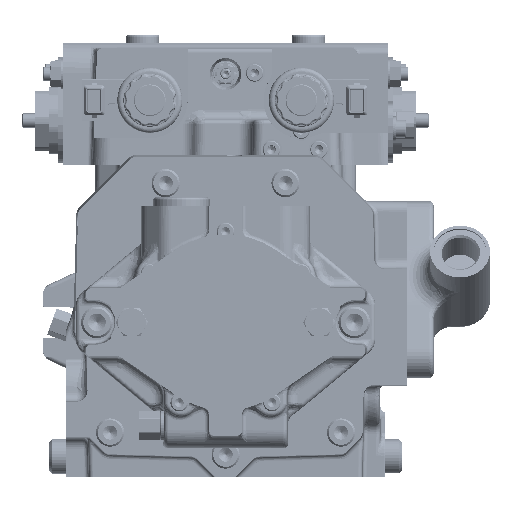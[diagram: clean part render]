
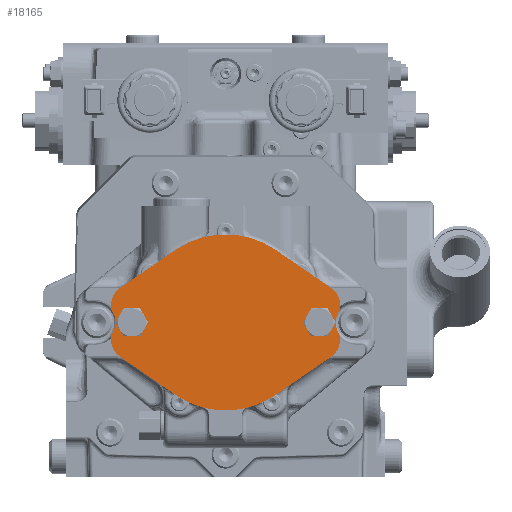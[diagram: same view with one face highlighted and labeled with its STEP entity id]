
A CAD part, front view. The second image highlights one B-rep face of the part: STEP entity #18165.
In plain terms, the highlighted planar face has unit normal (0, -1, 0).
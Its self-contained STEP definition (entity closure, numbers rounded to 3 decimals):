
#3175=PLANE('',#79796);
#4853=FACE_BOUND('',#27839,.T.);
#4854=FACE_BOUND('',#27840,.T.);
#4855=FACE_BOUND('',#27841,.T.);
#9588=LINE('',#139176,#13575);
#9589=LINE('',#139180,#13576);
#9590=LINE('',#139184,#13577);
#9591=LINE('',#139188,#13578);
#9592=LINE('',#139196,#13579);
#9593=LINE('',#139200,#13580);
#9594=LINE('',#139204,#13581);
#9595=LINE('',#139208,#13582);
#13575=VECTOR('',#97079,1.);
#13576=VECTOR('',#97082,1.);
#13577=VECTOR('',#97085,1.);
#13578=VECTOR('',#97088,1.);
#13579=VECTOR('',#97095,1.);
#13580=VECTOR('',#97098,1.);
#13581=VECTOR('',#97101,1.);
#13582=VECTOR('',#97104,1.);
#18165=ADVANCED_FACE('',(#4853,#4854,#4855),#3175,.T.);
#27839=EDGE_LOOP('',(#48947));
#27840=EDGE_LOOP('',(#48948,#48949,#48950,#48951,#48952,#48953,#48954,#48955,
#48956,#48957,#48958,#48959,#48960,#48961,#48962,#48963,#48964,#48965,#48966,
#48967));
#27841=EDGE_LOOP('',(#48968));
#32132=CIRCLE('',#79782,7.015);
#32133=CIRCLE('',#79783,12.);
#32134=CIRCLE('',#79784,4.);
#32135=CIRCLE('',#79785,12.);
#32136=CIRCLE('',#79786,50.);
#32137=CIRCLE('',#79787,12.);
#32138=CIRCLE('',#79788,4.);
#32139=CIRCLE('',#79789,12.);
#32140=CIRCLE('',#79790,4.);
#32141=CIRCLE('',#79791,12.);
#32142=CIRCLE('',#79792,50.);
#32143=CIRCLE('',#79793,12.);
#32144=CIRCLE('',#79794,4.);
#32145=CIRCLE('',#79795,7.015);
#48947=ORIENTED_EDGE('',*,*,#68566,.T.);
#48948=ORIENTED_EDGE('',*,*,#68567,.F.);
#48949=ORIENTED_EDGE('',*,*,#68568,.T.);
#48950=ORIENTED_EDGE('',*,*,#68569,.F.);
#48951=ORIENTED_EDGE('',*,*,#68570,.T.);
#48952=ORIENTED_EDGE('',*,*,#68571,.T.);
#48953=ORIENTED_EDGE('',*,*,#68572,.F.);
#48954=ORIENTED_EDGE('',*,*,#68573,.F.);
#48955=ORIENTED_EDGE('',*,*,#68574,.T.);
#48956=ORIENTED_EDGE('',*,*,#68575,.F.);
#48957=ORIENTED_EDGE('',*,*,#68576,.T.);
#48958=ORIENTED_EDGE('',*,*,#68577,.T.);
#48959=ORIENTED_EDGE('',*,*,#68578,.T.);
#48960=ORIENTED_EDGE('',*,*,#68579,.F.);
#48961=ORIENTED_EDGE('',*,*,#68580,.T.);
#48962=ORIENTED_EDGE('',*,*,#68581,.T.);
#48963=ORIENTED_EDGE('',*,*,#68582,.F.);
#48964=ORIENTED_EDGE('',*,*,#68583,.F.);
#48965=ORIENTED_EDGE('',*,*,#68584,.T.);
#48966=ORIENTED_EDGE('',*,*,#68585,.F.);
#48967=ORIENTED_EDGE('',*,*,#68586,.T.);
#48968=ORIENTED_EDGE('',*,*,#68587,.T.);
#58999=VERTEX_POINT('',#139170);
#59000=VERTEX_POINT('',#139172);
#59001=VERTEX_POINT('',#139173);
#59002=VERTEX_POINT('',#139175);
#59003=VERTEX_POINT('',#139177);
#59004=VERTEX_POINT('',#139179);
#59005=VERTEX_POINT('',#139181);
#59006=VERTEX_POINT('',#139183);
#59007=VERTEX_POINT('',#139185);
#59008=VERTEX_POINT('',#139187);
#59009=VERTEX_POINT('',#139189);
#59010=VERTEX_POINT('',#139191);
#59011=VERTEX_POINT('',#139193);
#59012=VERTEX_POINT('',#139195);
#59013=VERTEX_POINT('',#139197);
#59014=VERTEX_POINT('',#139199);
#59015=VERTEX_POINT('',#139201);
#59016=VERTEX_POINT('',#139203);
#59017=VERTEX_POINT('',#139205);
#59018=VERTEX_POINT('',#139207);
#59019=VERTEX_POINT('',#139209);
#59020=VERTEX_POINT('',#139212);
#68566=EDGE_CURVE('',#58999,#58999,#32132,.T.);
#68567=EDGE_CURVE('',#59000,#59001,#32133,.T.);
#68568=EDGE_CURVE('',#59000,#59002,#32134,.T.);
#68569=EDGE_CURVE('',#59003,#59002,#9588,.T.);
#68570=EDGE_CURVE('',#59003,#59004,#32135,.T.);
#68571=EDGE_CURVE('',#59004,#59005,#9589,.T.);
#68572=EDGE_CURVE('',#59006,#59005,#32136,.T.);
#68573=EDGE_CURVE('',#59007,#59006,#9590,.T.);
#68574=EDGE_CURVE('',#59007,#59008,#32137,.T.);
#68575=EDGE_CURVE('',#59009,#59008,#9591,.T.);
#68576=EDGE_CURVE('',#59009,#59010,#32138,.T.);
#68577=EDGE_CURVE('',#59010,#59011,#32139,.T.);
#68578=EDGE_CURVE('',#59011,#59012,#32140,.T.);
#68579=EDGE_CURVE('',#59013,#59012,#9592,.T.);
#68580=EDGE_CURVE('',#59013,#59014,#32141,.T.);
#68581=EDGE_CURVE('',#59014,#59015,#9593,.T.);
#68582=EDGE_CURVE('',#59016,#59015,#32142,.T.);
#68583=EDGE_CURVE('',#59017,#59016,#9594,.T.);
#68584=EDGE_CURVE('',#59017,#59018,#32143,.T.);
#68585=EDGE_CURVE('',#59019,#59018,#9595,.T.);
#68586=EDGE_CURVE('',#59019,#59001,#32144,.T.);
#68587=EDGE_CURVE('',#59020,#59020,#32145,.T.);
#79782=AXIS2_PLACEMENT_3D('',#139169,#97073,#97074);
#79783=AXIS2_PLACEMENT_3D('',#139171,#97075,#97076);
#79784=AXIS2_PLACEMENT_3D('',#139174,#97077,#97078);
#79785=AXIS2_PLACEMENT_3D('',#139178,#97080,#97081);
#79786=AXIS2_PLACEMENT_3D('',#139182,#97083,#97084);
#79787=AXIS2_PLACEMENT_3D('',#139186,#97086,#97087);
#79788=AXIS2_PLACEMENT_3D('',#139190,#97089,#97090);
#79789=AXIS2_PLACEMENT_3D('',#139192,#97091,#97092);
#79790=AXIS2_PLACEMENT_3D('',#139194,#97093,#97094);
#79791=AXIS2_PLACEMENT_3D('',#139198,#97096,#97097);
#79792=AXIS2_PLACEMENT_3D('',#139202,#97099,#97100);
#79793=AXIS2_PLACEMENT_3D('',#139206,#97102,#97103);
#79794=AXIS2_PLACEMENT_3D('',#139210,#97105,#97106);
#79795=AXIS2_PLACEMENT_3D('',#139211,#97107,#97108);
#79796=AXIS2_PLACEMENT_3D('',#139213,#97109,#97110);
#97073=DIRECTION('',(0.,1.,0.));
#97074=DIRECTION('',(0.,0.,-1.));
#97075=DIRECTION('',(0.,-1.,0.));
#97076=DIRECTION('',(-1.,0.,0.));
#97077=DIRECTION('',(0.,-1.,0.));
#97078=DIRECTION('',(-1.,0.,0.));
#97079=DIRECTION('',(0.,0.,1.));
#97080=DIRECTION('',(0.,-1.,0.));
#97081=DIRECTION('',(-1.,0.,0.));
#97082=DIRECTION('',(0.824,0.,-0.566));
#97083=DIRECTION('',(0.,1.,0.));
#97084=DIRECTION('',(1.,0.,0.));
#97085=DIRECTION('',(-0.824,0.,-0.566));
#97086=DIRECTION('',(0.,-1.,0.));
#97087=DIRECTION('',(-1.,0.,0.));
#97088=DIRECTION('',(0.,0.,-1.));
#97089=DIRECTION('',(0.,-1.,0.));
#97090=DIRECTION('',(-1.,0.,0.));
#97091=DIRECTION('',(0.,1.,0.));
#97092=DIRECTION('',(1.,0.,0.));
#97093=DIRECTION('',(0.,-1.,0.));
#97094=DIRECTION('',(-1.,0.,0.));
#97095=DIRECTION('',(0.,0.,-1.));
#97096=DIRECTION('',(0.,-1.,0.));
#97097=DIRECTION('',(-1.,0.,0.));
#97098=DIRECTION('',(-0.824,0.,0.566));
#97099=DIRECTION('',(0.,1.,0.));
#97100=DIRECTION('',(-1.,0.,0.));
#97101=DIRECTION('',(0.824,0.,0.566));
#97102=DIRECTION('',(0.,-1.,0.));
#97103=DIRECTION('',(-1.,0.,0.));
#97104=DIRECTION('',(0.,0.,1.));
#97105=DIRECTION('',(0.,-1.,0.));
#97106=DIRECTION('',(-1.,0.,0.));
#97107=DIRECTION('',(0.,1.,0.));
#97108=DIRECTION('',(0.,0.,-1.));
#97109=DIRECTION('',(0.,-1.,0.));
#97110=DIRECTION('',(1.,0.,0.));
#139169=CARTESIAN_POINT('',(-53.2,-117.6,0.));
#139170=CARTESIAN_POINT('',(-53.2,-117.6,-7.015));
#139171=CARTESIAN_POINT('',(-74.5,-117.6,0.));
#139172=CARTESIAN_POINT('',(-64.375,-117.6,-6.441));
#139173=CARTESIAN_POINT('',(-64.375,-117.6,6.441));
#139174=CARTESIAN_POINT('',(-61.,-117.6,-8.588));
#139175=CARTESIAN_POINT('',(-65.,-117.6,-8.588));
#139176=CARTESIAN_POINT('',(-65.,-117.6,0.));
#139177=CARTESIAN_POINT('',(-65.,-117.6,-9.686));
#139178=CARTESIAN_POINT('',(-53.,-117.6,-9.686));
#139179=CARTESIAN_POINT('',(-59.796,-117.6,-19.576));
#139180=CARTESIAN_POINT('',(-65.,-117.6,-16.));
#139181=CARTESIAN_POINT('',(-28.318,-117.6,-41.208));
#139182=CARTESIAN_POINT('',(0.,-117.6,0.));
#139183=CARTESIAN_POINT('',(28.318,-117.6,-41.208));
#139184=CARTESIAN_POINT('',(65.,-117.6,-16.));
#139185=CARTESIAN_POINT('',(59.796,-117.6,-19.576));
#139186=CARTESIAN_POINT('',(53.,-117.6,-9.686));
#139187=CARTESIAN_POINT('',(65.,-117.6,-9.686));
#139188=CARTESIAN_POINT('',(65.,-117.6,0.));
#139189=CARTESIAN_POINT('',(65.,-117.6,-8.588));
#139190=CARTESIAN_POINT('',(61.,-117.6,-8.588));
#139191=CARTESIAN_POINT('',(64.375,-117.6,-6.441));
#139192=CARTESIAN_POINT('',(74.5,-117.6,0.));
#139193=CARTESIAN_POINT('',(64.375,-117.6,6.441));
#139194=CARTESIAN_POINT('',(61.,-117.6,8.588));
#139195=CARTESIAN_POINT('',(65.,-117.6,8.588));
#139196=CARTESIAN_POINT('',(65.,-117.6,0.));
#139197=CARTESIAN_POINT('',(65.,-117.6,9.686));
#139198=CARTESIAN_POINT('',(53.,-117.6,9.686));
#139199=CARTESIAN_POINT('',(59.796,-117.6,19.576));
#139200=CARTESIAN_POINT('',(65.,-117.6,16.));
#139201=CARTESIAN_POINT('',(28.318,-117.6,41.208));
#139202=CARTESIAN_POINT('',(0.,-117.6,0.));
#139203=CARTESIAN_POINT('',(-28.318,-117.6,41.208));
#139204=CARTESIAN_POINT('',(-65.,-117.6,16.));
#139205=CARTESIAN_POINT('',(-59.796,-117.6,19.576));
#139206=CARTESIAN_POINT('',(-53.,-117.6,9.686));
#139207=CARTESIAN_POINT('',(-65.,-117.6,9.686));
#139208=CARTESIAN_POINT('',(-65.,-117.6,0.));
#139209=CARTESIAN_POINT('',(-65.,-117.6,8.588));
#139210=CARTESIAN_POINT('',(-61.,-117.6,8.588));
#139211=CARTESIAN_POINT('',(53.2,-117.6,0.));
#139212=CARTESIAN_POINT('',(53.2,-117.6,-7.015));
#139213=CARTESIAN_POINT('',(0.,-117.6,0.));
